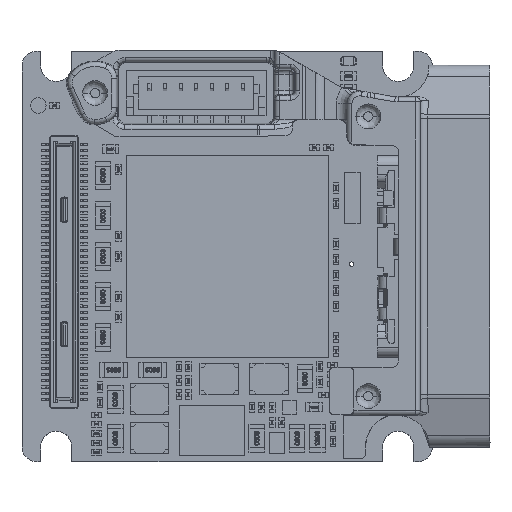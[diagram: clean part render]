
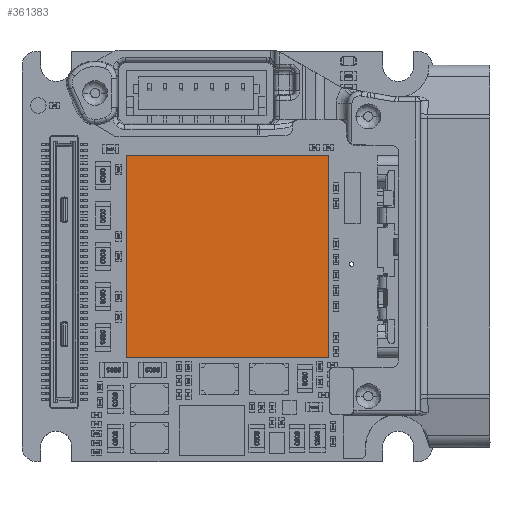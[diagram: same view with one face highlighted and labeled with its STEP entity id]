
A CAD part, top view. The second image highlights one B-rep face of the part: STEP entity #361383.
In plain terms, the highlighted planar face has unit normal (0, 0, 1).
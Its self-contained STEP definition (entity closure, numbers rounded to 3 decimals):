
#880 = LINE ( 'NONE', #170889, #173085 ) ;
#12003 = LINE ( 'NONE', #435638, #92377 ) ;
#17299 = EDGE_LOOP ( 'NONE', ( #98361, #214735, #502876, #135137 ) ) ;
#55007 = LINE ( 'NONE', #177804, #140266 ) ;
#70956 = DIRECTION ( 'NONE',  ( 1., 0., 0. ) ) ;
#92377 = VECTOR ( 'NONE', #430168, 1000. ) ;
#98361 = ORIENTED_EDGE ( 'NONE', *, *, #346982, .F. ) ;
#105970 = VECTOR ( 'NONE', #401823, 1000. ) ;
#112873 = PLANE ( 'NONE',  #406278 ) ;
#122494 = VERTEX_POINT ( 'NONE', #366161 ) ;
#122676 = CARTESIAN_POINT ( 'NONE',  ( 6.5, 6.5, 6.172 ) ) ;
#135137 = ORIENTED_EDGE ( 'NONE', *, *, #216794, .F. ) ;
#136018 = DIRECTION ( 'NONE',  ( 0., 1., 0. ) ) ;
#140266 = VECTOR ( 'NONE', #136018, 1000. ) ;
#153623 = CARTESIAN_POINT ( 'NONE',  ( -6.5, -6.5, 6.172 ) ) ;
#162879 = DIRECTION ( 'NONE',  ( 0., 0., 1. ) ) ;
#170889 = CARTESIAN_POINT ( 'NONE',  ( -6.5, 6.5, 6.172 ) ) ;
#173085 = VECTOR ( 'NONE', #181879, 1000. ) ;
#177804 = CARTESIAN_POINT ( 'NONE',  ( -6.5, -6.5, 6.172 ) ) ;
#181879 = DIRECTION ( 'NONE',  ( 1., 0., 0. ) ) ;
#214735 = ORIENTED_EDGE ( 'NONE', *, *, #504957, .F. ) ;
#216794 = EDGE_CURVE ( 'NONE', #244093, #336789, #55007, .T. ) ;
#244093 = VERTEX_POINT ( 'NONE', #153623 ) ;
#318102 = LINE ( 'NONE', #371038, #105970 ) ;
#318714 = VERTEX_POINT ( 'NONE', #122676 ) ;
#336789 = VERTEX_POINT ( 'NONE', #435011 ) ;
#346982 = EDGE_CURVE ( 'NONE', #122494, #244093, #12003, .T. ) ;
#361383 = ADVANCED_FACE ( 'NONE', ( #544593 ), #112873, .T. ) ;
#366161 = CARTESIAN_POINT ( 'NONE',  ( 6.5, -6.5, 6.172 ) ) ;
#371038 = CARTESIAN_POINT ( 'NONE',  ( 6.5, 6.5, 6.172 ) ) ;
#401823 = DIRECTION ( 'NONE',  ( 0., -1., 0. ) ) ;
#406278 = AXIS2_PLACEMENT_3D ( 'NONE', #502835, #162879, #70956 ) ;
#430168 = DIRECTION ( 'NONE',  ( -1., 0., 0. ) ) ;
#435011 = CARTESIAN_POINT ( 'NONE',  ( -6.5, 6.5, 6.172 ) ) ;
#435638 = CARTESIAN_POINT ( 'NONE',  ( 6.5, -6.5, 6.172 ) ) ;
#473036 = EDGE_CURVE ( 'NONE', #336789, #318714, #880, .T. ) ;
#502835 = CARTESIAN_POINT ( 'NONE',  ( -6.5, -6.5, 6.172 ) ) ;
#502876 = ORIENTED_EDGE ( 'NONE', *, *, #473036, .F. ) ;
#504957 = EDGE_CURVE ( 'NONE', #318714, #122494, #318102, .T. ) ;
#544593 = FACE_OUTER_BOUND ( 'NONE', #17299, .T. ) ;
